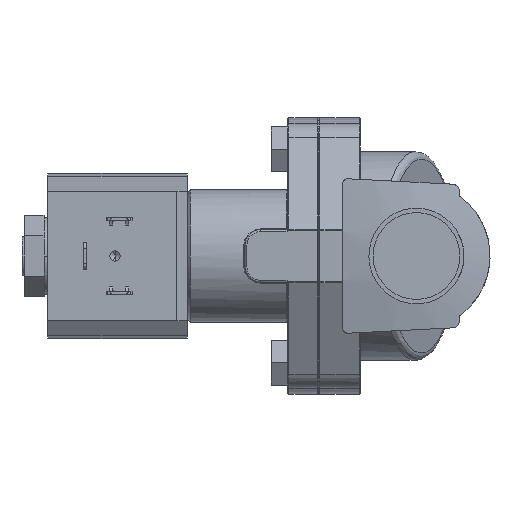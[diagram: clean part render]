
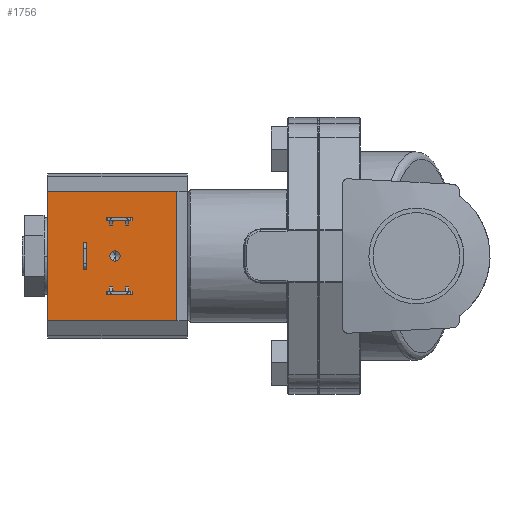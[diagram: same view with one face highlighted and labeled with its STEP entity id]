
A CAD part, left-side view. The second image highlights one B-rep face of the part: STEP entity #1756.
In plain terms, the highlighted planar face has unit normal (-1, 0, 0).
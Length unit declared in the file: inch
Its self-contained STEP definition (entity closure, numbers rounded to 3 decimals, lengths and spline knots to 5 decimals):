
#43 = ORIENTED_EDGE ( 'NONE', *, *, #6154, .T. ) ;
#64 = VECTOR ( 'NONE', #14203, 39.37008 ) ;
#157 = DIRECTION ( 'NONE',  ( 0., 0., 1. ) ) ;
#285 = LINE ( 'NONE', #4445, #7023 ) ;
#350 = LINE ( 'NONE', #5868, #13426 ) ;
#440 = DIRECTION ( 'NONE',  ( 0., 0., -1. ) ) ;
#558 = ORIENTED_EDGE ( 'NONE', *, *, #12142, .T. ) ;
#718 = VECTOR ( 'NONE', #9214, 39.37008 ) ;
#831 = VERTEX_POINT ( 'NONE', #14753 ) ;
#1265 = VERTEX_POINT ( 'NONE', #9272 ) ;
#1287 = EDGE_CURVE ( 'NONE', #14042, #16288, #10574, .T. ) ;
#1369 = LINE ( 'NONE', #6844, #6130 ) ;
#1538 = AXIS2_PLACEMENT_3D ( 'NONE', #2934, #13056, #8522 ) ;
#1597 = CARTESIAN_POINT ( 'NONE',  ( -0.982, 2.108, -0.371 ) ) ;
#1641 = CARTESIAN_POINT ( 'NONE',  ( -0.982, 2.0234, 0.04975 ) ) ;
#1756 = ADVANCED_FACE ( 'Defeatured_0_297', ( #6079, #7443, #8882, #14423, #1915 ), #7533, .T. ) ;
#1887 = DIRECTION ( 'NONE',  ( 0., 0., 1. ) ) ;
#1915 = FACE_BOUND ( 'NONE', #6569, .T. ) ;
#2104 = CARTESIAN_POINT ( 'NONE',  ( -0.982, 2.0234, 0. ) ) ;
#2147 = VECTOR ( 'NONE', #11627, 39.37008 ) ;
#2231 = CARTESIAN_POINT ( 'NONE',  ( -0.982, 2.333, 0.1265 ) ) ;
#2279 = EDGE_CURVE ( 'NONE', #10356, #9672, #17149, .T. ) ;
#2507 = ORIENTED_EDGE ( 'NONE', *, *, #2279, .T. ) ;
#2638 = VERTEX_POINT ( 'NONE', #3576 ) ;
#2934 = CARTESIAN_POINT ( 'NONE',  ( -0.982, 1.424, -0.625 ) ) ;
#3105 = CARTESIAN_POINT ( 'NONE',  ( -0.982, 1.424, -0.625 ) ) ;
#3245 = EDGE_CURVE ( 'NONE', #3764, #11633, #350, .T. ) ;
#3491 = AXIS2_PLACEMENT_3D ( 'NONE', #9972, #7167, #7343 ) ;
#3576 = CARTESIAN_POINT ( 'NONE',  ( -0.982, 2.301, -0.1265 ) ) ;
#3653 = CARTESIAN_POINT ( 'NONE',  ( -0.982, 1.424, 0.625 ) ) ;
#3738 = LINE ( 'NONE', #7953, #718 ) ;
#3764 = VERTEX_POINT ( 'NONE', #16513 ) ;
#3937 = EDGE_CURVE ( 'NONE', #1265, #5657, #10043, .T. ) ;
#4004 = EDGE_CURVE ( 'NONE', #13261, #2638, #10672, .T. ) ;
#4075 = EDGE_LOOP ( 'NONE', ( #9505, #10981, #2507, #13597 ) ) ;
#4254 = EDGE_CURVE ( 'NONE', #6983, #5875, #15116, .T. ) ;
#4344 = DIRECTION ( 'NONE',  ( 0., 1., 0. ) ) ;
#4436 = CARTESIAN_POINT ( 'NONE',  ( -0.982, 2.301, 0.1265 ) ) ;
#4445 = CARTESIAN_POINT ( 'NONE',  ( -0.982, 2.333, -0.1265 ) ) ;
#4505 = VECTOR ( 'NONE', #13470, 39.37008 ) ;
#4636 = CARTESIAN_POINT ( 'NONE',  ( -0.982, 2.108, 0.339 ) ) ;
#4750 = CARTESIAN_POINT ( 'NONE',  ( -0.982, 1.858, -0.339 ) ) ;
#4776 = VERTEX_POINT ( 'NONE', #4436 ) ;
#4880 = DIRECTION ( 'NONE',  ( 0., -1., 0. ) ) ;
#5395 = CARTESIAN_POINT ( 'NONE',  ( -0.982, 2.674, -0.625 ) ) ;
#5657 = VERTEX_POINT ( 'NONE', #8625 ) ;
#5733 = CARTESIAN_POINT ( 'NONE',  ( -0.982, 1.858, 0.339 ) ) ;
#5868 = CARTESIAN_POINT ( 'NONE',  ( -0.982, 1.858, 0.371 ) ) ;
#5875 = VERTEX_POINT ( 'NONE', #9866 ) ;
#5905 = AXIS2_PLACEMENT_3D ( 'NONE', #2104, #15712, #7455 ) ;
#5933 = ORIENTED_EDGE ( 'NONE', *, *, #16464, .T. ) ;
#6079 = FACE_BOUND ( 'NONE', #9690, .T. ) ;
#6130 = VECTOR ( 'NONE', #12622, 39.37008 ) ;
#6154 = EDGE_CURVE ( 'NONE', #1265, #8927, #8573, .T. ) ;
#6295 = ORIENTED_EDGE ( 'NONE', *, *, #15358, .F. ) ;
#6329 = CARTESIAN_POINT ( 'NONE',  ( -0.982, 2.108, -0.339 ) ) ;
#6383 = ORIENTED_EDGE ( 'NONE', *, *, #3245, .T. ) ;
#6569 = EDGE_LOOP ( 'NONE', ( #17665, #13634, #43, #14348 ) ) ;
#6844 = CARTESIAN_POINT ( 'NONE',  ( -0.982, 2.301, -0.1265 ) ) ;
#6903 = VERTEX_POINT ( 'NONE', #8259 ) ;
#6983 = VERTEX_POINT ( 'NONE', #1641 ) ;
#7023 = VECTOR ( 'NONE', #15520, 39.37008 ) ;
#7167 = DIRECTION ( 'NONE',  ( -1., 0., 0. ) ) ;
#7343 = DIRECTION ( 'NONE',  ( 0., 0., 1. ) ) ;
#7357 = VECTOR ( 'NONE', #14870, 39.37008 ) ;
#7443 = FACE_BOUND ( 'NONE', #11738, .T. ) ;
#7455 = DIRECTION ( 'NONE',  ( 0., 0., 1. ) ) ;
#7533 = PLANE ( 'NONE',  #1538 ) ;
#7589 = ORIENTED_EDGE ( 'NONE', *, *, #12112, .F. ) ;
#7817 = CARTESIAN_POINT ( 'NONE',  ( -0.982, 2.333, -0.1265 ) ) ;
#7840 = CARTESIAN_POINT ( 'NONE',  ( -0.982, 2.674, -0.625 ) ) ;
#7953 = CARTESIAN_POINT ( 'NONE',  ( -0.982, 2.108, 0.371 ) ) ;
#8028 = DIRECTION ( 'NONE',  ( 0., 0., -1. ) ) ;
#8259 = CARTESIAN_POINT ( 'NONE',  ( -0.982, 2.108, 0.339 ) ) ;
#8522 = DIRECTION ( 'NONE',  ( 0., 0., 1. ) ) ;
#8573 = LINE ( 'NONE', #1597, #9340 ) ;
#8594 = EDGE_CURVE ( 'NONE', #5657, #12368, #16836, .T. ) ;
#8617 = LINE ( 'NONE', #4636, #14536 ) ;
#8625 = CARTESIAN_POINT ( 'NONE',  ( -0.982, 1.858, -0.371 ) ) ;
#8807 = EDGE_LOOP ( 'NONE', ( #9421, #11685, #558, #5933 ) ) ;
#8834 = ORIENTED_EDGE ( 'NONE', *, *, #4254, .F. ) ;
#8880 = EDGE_CURVE ( 'NONE', #2638, #4776, #1369, .T. ) ;
#8882 = FACE_OUTER_BOUND ( 'NONE', #4075, .T. ) ;
#8927 = VERTEX_POINT ( 'NONE', #15903 ) ;
#9214 = DIRECTION ( 'NONE',  ( 0., -1., 0. ) ) ;
#9272 = CARTESIAN_POINT ( 'NONE',  ( -0.982, 2.108, -0.371 ) ) ;
#9340 = VECTOR ( 'NONE', #157, 39.37008 ) ;
#9421 = ORIENTED_EDGE ( 'NONE', *, *, #8880, .F. ) ;
#9505 = ORIENTED_EDGE ( 'NONE', *, *, #1287, .F. ) ;
#9589 = EDGE_CURVE ( 'NONE', #831, #3764, #3738, .T. ) ;
#9592 = EDGE_CURVE ( 'NONE', #8927, #12368, #17458, .T. ) ;
#9610 = LINE ( 'NONE', #17855, #7357 ) ;
#9672 = VERTEX_POINT ( 'NONE', #3653 ) ;
#9690 = EDGE_LOOP ( 'NONE', ( #8834, #6295 ) ) ;
#9866 = CARTESIAN_POINT ( 'NONE',  ( -0.982, 2.0234, -0.04975 ) ) ;
#9961 = ORIENTED_EDGE ( 'NONE', *, *, #16584, .F. ) ;
#9972 = CARTESIAN_POINT ( 'NONE',  ( -0.982, 2.0234, 0. ) ) ;
#10043 = LINE ( 'NONE', #16932, #64 ) ;
#10356 = VERTEX_POINT ( 'NONE', #3105 ) ;
#10574 = LINE ( 'NONE', #7840, #15535 ) ;
#10672 = LINE ( 'NONE', #12107, #4505 ) ;
#10851 = CIRCLE ( 'NONE', #5905, 0.04975 ) ;
#10981 = ORIENTED_EDGE ( 'NONE', *, *, #17300, .F. ) ;
#11627 = DIRECTION ( 'NONE',  ( 0., 0., 1. ) ) ;
#11633 = VERTEX_POINT ( 'NONE', #5733 ) ;
#11685 = ORIENTED_EDGE ( 'NONE', *, *, #4004, .F. ) ;
#11738 = EDGE_LOOP ( 'NONE', ( #6383, #7589, #9961, #14867 ) ) ;
#11889 = EDGE_CURVE ( 'NONE', #9672, #16288, #12507, .T. ) ;
#11928 = VECTOR ( 'NONE', #4344, 39.37008 ) ;
#12107 = CARTESIAN_POINT ( 'NONE',  ( -0.982, 2.333, -0.1265 ) ) ;
#12112 = EDGE_CURVE ( 'NONE', #6903, #11633, #8617, .T. ) ;
#12142 = EDGE_CURVE ( 'NONE', #13261, #12239, #285, .T. ) ;
#12239 = VERTEX_POINT ( 'NONE', #14933 ) ;
#12368 = VERTEX_POINT ( 'NONE', #4750 ) ;
#12507 = LINE ( 'NONE', #13789, #11928 ) ;
#12622 = DIRECTION ( 'NONE',  ( 0., 0., 1. ) ) ;
#12966 = DIRECTION ( 'NONE',  ( 0., -1., 0. ) ) ;
#13056 = DIRECTION ( 'NONE',  ( -1., 0., 0. ) ) ;
#13261 = VERTEX_POINT ( 'NONE', #7817 ) ;
#13266 = VECTOR ( 'NONE', #4880, 39.37008 ) ;
#13426 = VECTOR ( 'NONE', #440, 39.37008 ) ;
#13466 = LINE ( 'NONE', #2231, #15792 ) ;
#13470 = DIRECTION ( 'NONE',  ( 0., -1., 0. ) ) ;
#13535 = DIRECTION ( 'NONE',  ( 0., 0., 1. ) ) ;
#13597 = ORIENTED_EDGE ( 'NONE', *, *, #11889, .T. ) ;
#13628 = LINE ( 'NONE', #17712, #15199 ) ;
#13634 = ORIENTED_EDGE ( 'NONE', *, *, #3937, .F. ) ;
#13652 = CARTESIAN_POINT ( 'NONE',  ( -0.982, 2.674, 0.625 ) ) ;
#13789 = CARTESIAN_POINT ( 'NONE',  ( -0.982, 1.424, 0.625 ) ) ;
#14042 = VERTEX_POINT ( 'NONE', #5395 ) ;
#14120 = CARTESIAN_POINT ( 'NONE',  ( -0.982, 1.858, -0.371 ) ) ;
#14203 = DIRECTION ( 'NONE',  ( 0., -1., 0. ) ) ;
#14348 = ORIENTED_EDGE ( 'NONE', *, *, #9592, .T. ) ;
#14423 = FACE_BOUND ( 'NONE', #8807, .T. ) ;
#14536 = VECTOR ( 'NONE', #12966, 39.37008 ) ;
#14753 = CARTESIAN_POINT ( 'NONE',  ( -0.982, 2.108, 0.371 ) ) ;
#14867 = ORIENTED_EDGE ( 'NONE', *, *, #9589, .T. ) ;
#14870 = DIRECTION ( 'NONE',  ( 0., 1., 0. ) ) ;
#14933 = CARTESIAN_POINT ( 'NONE',  ( -0.982, 2.333, 0.1265 ) ) ;
#15116 = CIRCLE ( 'NONE', #3491, 0.04975 ) ;
#15199 = VECTOR ( 'NONE', #8028, 39.37008 ) ;
#15358 = EDGE_CURVE ( 'NONE', #5875, #6983, #10851, .T. ) ;
#15520 = DIRECTION ( 'NONE',  ( 0., 0., 1. ) ) ;
#15535 = VECTOR ( 'NONE', #13535, 39.37008 ) ;
#15712 = DIRECTION ( 'NONE',  ( -1., 0., 0. ) ) ;
#15792 = VECTOR ( 'NONE', #16189, 39.37008 ) ;
#15903 = CARTESIAN_POINT ( 'NONE',  ( -0.982, 2.108, -0.339 ) ) ;
#16075 = CARTESIAN_POINT ( 'NONE',  ( -0.982, 1.424, -0.625 ) ) ;
#16189 = DIRECTION ( 'NONE',  ( 0., -1., 0. ) ) ;
#16288 = VERTEX_POINT ( 'NONE', #13652 ) ;
#16464 = EDGE_CURVE ( 'NONE', #12239, #4776, #13466, .T. ) ;
#16513 = CARTESIAN_POINT ( 'NONE',  ( -0.982, 1.858, 0.371 ) ) ;
#16554 = VECTOR ( 'NONE', #1887, 39.37008 ) ;
#16584 = EDGE_CURVE ( 'NONE', #831, #6903, #13628, .T. ) ;
#16836 = LINE ( 'NONE', #14120, #16554 ) ;
#16932 = CARTESIAN_POINT ( 'NONE',  ( -0.982, 2.108, -0.371 ) ) ;
#17149 = LINE ( 'NONE', #16075, #2147 ) ;
#17300 = EDGE_CURVE ( 'NONE', #10356, #14042, #9610, .T. ) ;
#17458 = LINE ( 'NONE', #6329, #13266 ) ;
#17665 = ORIENTED_EDGE ( 'NONE', *, *, #8594, .F. ) ;
#17712 = CARTESIAN_POINT ( 'NONE',  ( -0.982, 2.108, 0.371 ) ) ;
#17855 = CARTESIAN_POINT ( 'NONE',  ( -0.982, 1.424, -0.625 ) ) ;
